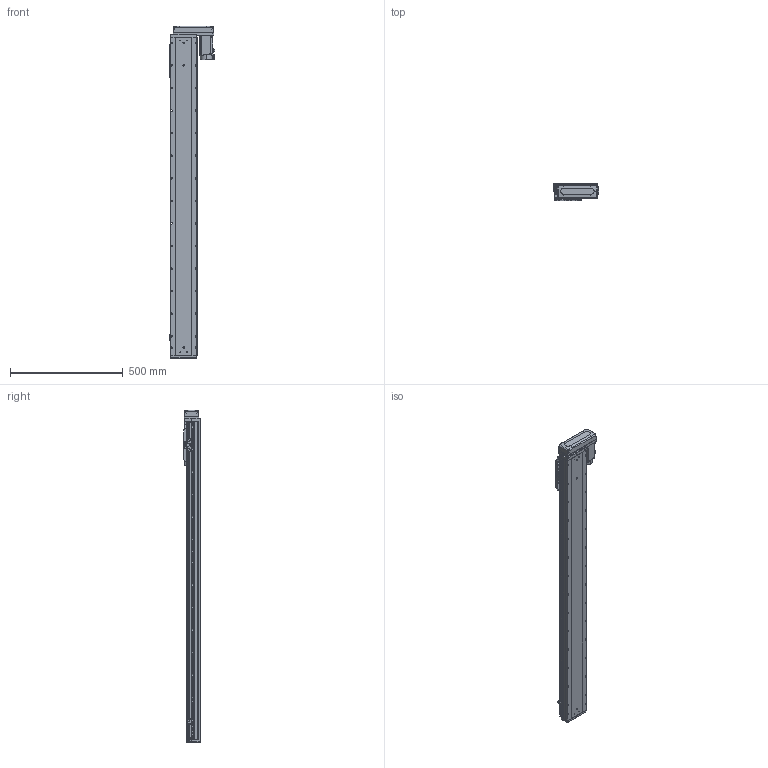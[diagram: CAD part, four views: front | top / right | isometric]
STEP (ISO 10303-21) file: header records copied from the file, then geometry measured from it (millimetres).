
FILE_DESCRIPTION (( 'STEP AP203' ), '1' );
FILE_NAME ('GTH12-1200-BL-M40-C4.step', '2025-07-16T03:40:27', ( '' ), ( '' ), 'SwSTEP 2.0', 'SolidWorks 2023', '' );
FILE_SCHEMA (( 'CONFIG_CONTROL_DESIGN' ));
Length unit declared in the file: millimetre
Products named in the file (17): GTH80-022; GTH120-001_1200; GBT 70.1-M3×6; GBT 70.3-M3×8; 感应器总成右; GBT 70.1-M5×16; GTH120-013; GTH120-006; GTH120-003; GTH120-027-1_GTH120-027-2; GTH120-004; hg-kn43j_-s100_; CTHA86-033_M40B; BTH-M3X5X6; GTH12-1200-BL-M40-C4; 感应器总成左; GTH80-028
Assembly tree (38 placements, depth 2):
  GTH12-1200-BL-M40-C4
    GTH120-001_1200
    GTH120-003
    GTH120-006
    GTH120-004
    GTH120-013
    GBT 70.1-M3×6  x2
    GBT 70.1-M5×16  x10
    GBT 70.3-M3×8  x4
    GTH80-022
    GTH80-028  x2
    BTH-M3X5X6  x8
    hg-kn43j_-s100_
    CTHA86-033_M40B
    GTH120-027-1_GTH120-027-2
    感应器总成右  x2
    感应器总成左
Bounding box: 203.5 x 76 x 1470.5 mm (x, y, z)
Volume: 10437246 mm3; surface area: 870287.1 mm2
Topology: 55 solids, 55 shells, 2543 faces, 6016 edges, 3709 vertices
Faces by surface type: plane 1276, cylinder 763, cone 328, torus 162, sphere 8, bspline 6
Entity records: 57086 total; most frequent: CARTESIAN_POINT 9766, DIRECTION 9711, ORIENTED_EDGE 9024, EDGE_CURVE 4512, AXIS2_PLACEMENT_3D 3387, LINE 2937, VECTOR 2937, VERTEX_POINT 2842
